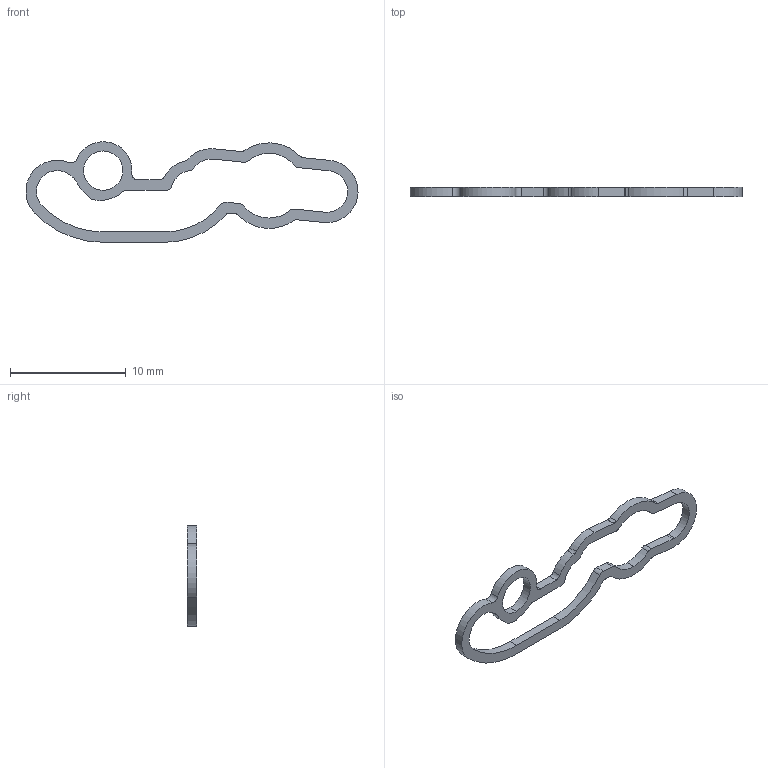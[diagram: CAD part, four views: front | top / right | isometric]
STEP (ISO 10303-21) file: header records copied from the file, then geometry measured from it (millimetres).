
FILE_DESCRIPTION (( 'STEP AP214' ), '1' );
FILE_NAME ('010801_LnG_seal_manifold_rA.STEP', '2023-01-26T22:58:45', ( '' ), ( '' ), 'SwSTEP 2.0', 'SolidWorks 2019', '' );
FILE_SCHEMA (( 'AUTOMOTIVE_DESIGN' ));
Length unit declared in the file: millimetre
Products named in the file (1): 010801_LnG_seal_manifold_rA
Bounding box: 28.72 x 0.79 x 8.7 mm (x, y, z)
Volume: 51.2 mm3; surface area: 242.8 mm2
Topology: 1 solids, 1 shells, 66 faces, 192 edges, 128 vertices
Faces by surface type: cylinder 50, plane 16
Entity records: 2278 total; most frequent: DIRECTION 426, CARTESIAN_POINT 387, ORIENTED_EDGE 384, EDGE_CURVE 192, AXIS2_PLACEMENT_3D 167, VERTEX_POINT 128, CIRCLE 100, VECTOR 92
